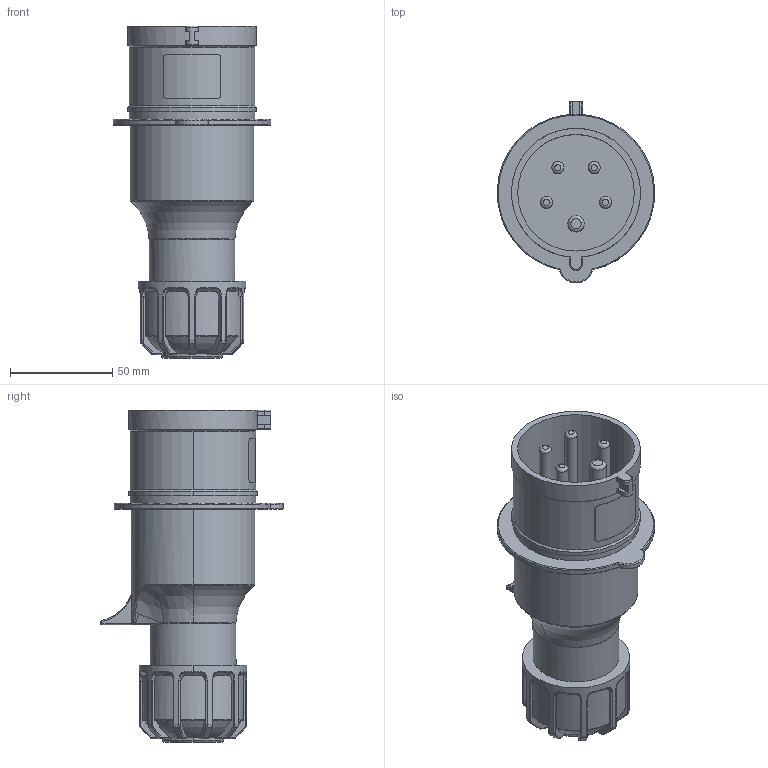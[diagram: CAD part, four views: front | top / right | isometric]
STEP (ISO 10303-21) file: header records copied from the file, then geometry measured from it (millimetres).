
FILE_DESCRIPTION(('FreeCAD Model'),'2;1');
FILE_NAME('Open CASCADE Shape Model','2026-02-04T09:42:31',(''),(''), 'Open CASCADE STEP processor 7.8','FreeCAD','Unknown');
FILE_SCHEMA(('AUTOMOTIVE_DESIGN { 1 0 10303 214 1 1 1 1 }'));
Length unit declared in the file: millimetre
Products named in the file (8): TL3P32453; Tomada; Pino Neutro; Pino L3; Pino Terra; Pino L2; Pino L1; Prensa cabo
Assembly tree (7 placements, depth 2):
  TL3P32453
    Tomada
    Pino Neutro
    Pino L3
    Pino Terra
    Pino L2
    Pino L1
    Prensa cabo
Bounding box: 76.98 x 89 x 162.2 mm (x, y, z)
Volume: 274230.2 mm3; surface area: 61416.4 mm2
Topology: 7 solids, 11 shells, 436 faces, 1034 edges, 623 vertices
Faces by surface type: bspline 142, plane 104, cylinder 99, torus 61, cone 24, sphere 6
Full cylindrical faces by diameter (mm): 6 x4, 8 x1, 39.405 x1, 42 x1, 61.4 x1
Entity records: 22138 total; most frequent: CARTESIAN_POINT 13049, ORIENTED_EDGE 2068, DIRECTION 1601, EDGE_CURVE 1034, AXIS2_PLACEMENT_3D 684, VERTEX_POINT 623, FACE_BOUND 443, EDGE_LOOP 443
